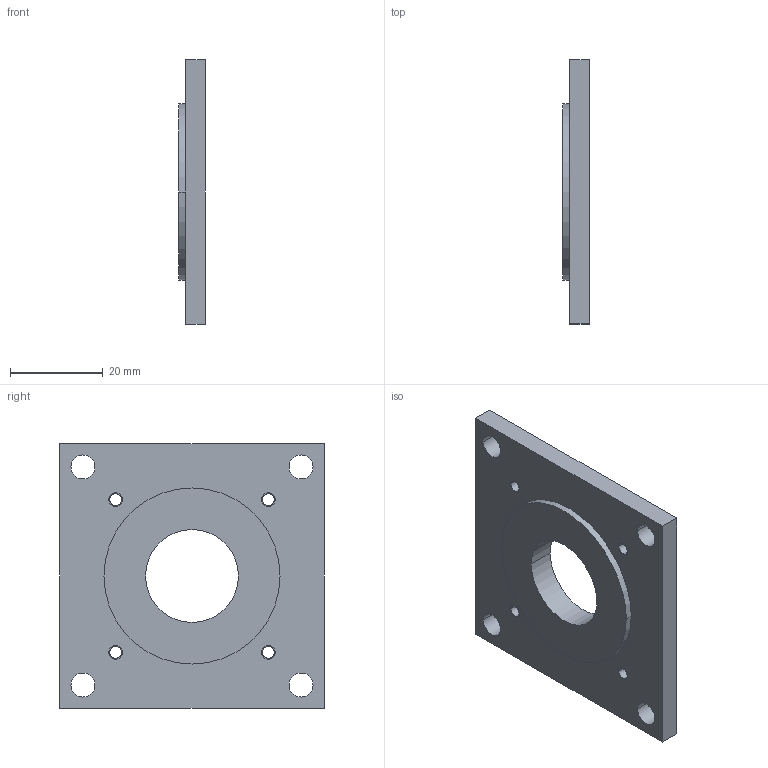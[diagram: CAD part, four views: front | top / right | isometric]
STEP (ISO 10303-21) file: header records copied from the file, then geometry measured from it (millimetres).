
FILE_DESCRIPTION((''),'2;1');
FILE_NAME('10923710','2002-09-10T',('FKrakosh'),(''),'PRO/ENGINEER BY PARAMETRIC TECHNOLOGY CORPORATION, 2002270','PRO/ENGINEER BY PARAMETRIC TECHNOLOGY CORPORATION, 2002270','');
FILE_SCHEMA(('CONFIG_CONTROL_DESIGN'));
Length unit declared in the file: inch
Products named in the file (1): 10923710
Bounding box: 5.79 x 57.15 x 57.15 mm (x, y, z)
Volume: 13449.5 mm3; surface area: 7793.7 mm2
Topology: 1 solids, 5 shells, 35 faces, 96 edges, 64 vertices
Faces by surface type: cylinder 28, plane 7
Entity records: 1219 total; most frequent: DIRECTION 224, CARTESIAN_POINT 196, ORIENTED_EDGE 176, EDGE_CURVE 96, AXIS2_PLACEMENT_3D 92, VERTEX_POINT 64, CIRCLE 56, EDGE_LOOP 54
